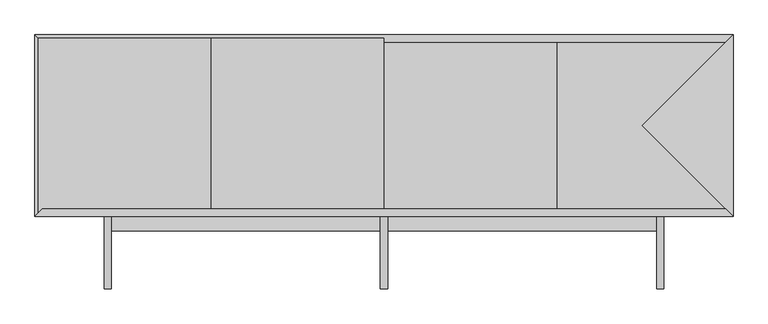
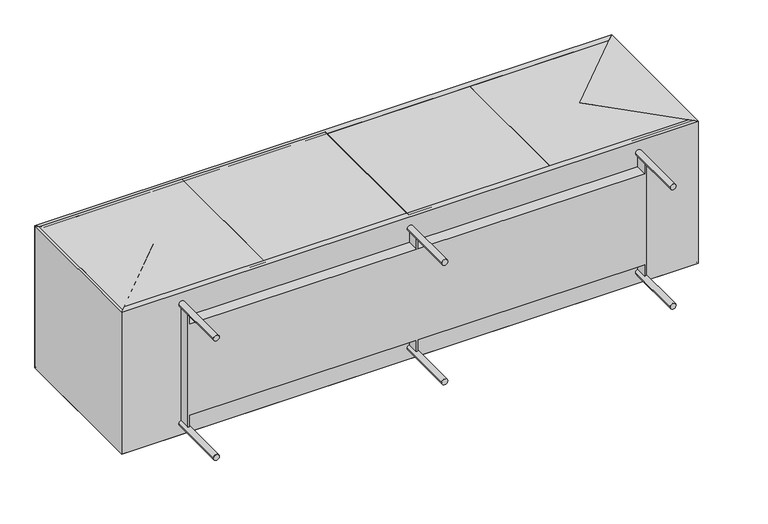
"""IFC4 building model written with IfcOpenShell, lengths in millimetres: proxy geometry, PARAGON^CREDENZA 1_35x96 4 DOORS-PARTS SOLID."""

from ifc_helpers import new_model, si_unit, frame, origin, place, context, project, spatial, polyline, circle_curve, outline, extrude, faceted_brep, source, transform, mapped, element, save
from ifc_brep_helpers import plane_surface, cylinder_surface, advanced_brep


def generic_models_fd7c845a(model_context):
    return source(origin(), model_context, "Body", "SolidModel", [
        faceted_brep([(2413.0, 25.4, 635.0), (25.4, 25.4, 635.0), (0.0, 0.0, 635.0), (2438.4, 0.0, 635.0), (2413.0, 25.4, 25.4), (25.4, 25.4, 25.4), (2438.4, 0.0, 0.0), (0.0, 0.0, 0.0)], [[[0, 1, 2, 3]], [[1, 0, 4, 5]], [[4, 0, 3, 6]], [[1, 5, 7, 2]], [[7, 5, 4, 6]], [[7, 6, 3, 2]]]),
        advanced_brep(
        [(266.7, 0.0, 50.8), (266.7, -254.0, 50.8), (241.3, -254.0, 50.8), (241.3, 0.0, 50.8), (266.7, 0.0, 584.2), (266.7, -254.0, 584.2), (241.3, -254.0, 584.2), (241.3, 0.0, 584.2), (250.825, 0.0, 571.9032779), (250.825, -50.8, 571.9032779), (257.175, -50.8, 571.9032779), (257.175, 0.0, 571.9032779), (2197.1, 0.0, 50.8), (2197.1, -254.0, 50.8), (2171.7, -254.0, 50.8), (2171.7, 0.0, 50.8), (2197.1, 0.0, 584.2), (2197.1, -254.0, 584.2), (2171.7, -254.0, 584.2), (2171.7, 0.0, 584.2), (2181.225, 0.0, 571.9032779), (2181.225, -50.8, 571.9032779), (2187.575, -50.8, 571.9032779), (2187.575, 0.0, 571.9032779), (1231.9, 0.0, 50.8), (1231.9, -254.0, 50.8), (1206.5, -254.0, 50.8), (1206.5, 0.0, 50.8), (1231.9, 0.0, 584.2), (1231.9, -254.0, 584.2), (1206.5, -254.0, 584.2), (1206.5, 0.0, 584.2), (1216.025, 0.0, 571.9032779), (1216.025, -50.8, 571.9032779), (1222.375, -50.8, 571.9032779), (1222.375, 0.0, 571.9032779), (257.175, 0.0, 113.8967221), (257.175, 0.0, 63.0967221), (250.825, 0.0, 63.0967221), (257.175, 0.0, 521.1032779), (1216.025, 0.0, 521.1032779), (1222.375, 0.0, 521.1032779), (2181.225, 0.0, 521.1032779), (2187.575, 0.0, 63.0967221), (2181.225, 0.0, 63.0967221), (2181.225, 0.0, 113.8967221), (1222.375, 0.0, 113.8967221), (1222.375, 0.0, 63.0967221), (1216.025, 0.0, 63.0967221), (1216.025, 0.0, 113.8967221), (257.175, -50.8, 113.8967221), (1216.025, -50.8, 113.8967221), (1216.025, -50.8, 63.0967221), (1222.375, -50.8, 63.0967221), (1222.375, -50.8, 113.8967221), (2181.225, -50.8, 113.8967221), (2181.225, -50.8, 63.0967221), (2187.575, -50.8, 63.0967221), (2181.225, -50.8, 521.1032779), (1222.375, -50.8, 521.1032779), (1216.025, -50.8, 521.1032779), (257.175, -50.8, 521.1032779), (250.825, -50.8, 63.0967221), (257.175, -50.8, 63.0967221)],
        [
            (0, 1),
            (1, 2, circle_curve(frame((254.0, -254.0, 50.8), z_axis=(0.0, 1.0, 0.0), x_axis=(1.0, 0.0, 0.0)), 12.7)),
            (2, 3),
            (3, 0, circle_curve(frame((254.0, 0.0, 50.8), z_axis=(0.0, -1.0, 0.0), x_axis=(1.0, 0.0, 0.0)), 12.7)),
            (4, 5),
            (5, 6, circle_curve(frame((254.0, -254.0, 584.2), z_axis=(0.0, 1.0, 0.0), x_axis=(1.0, 0.0, 0.0)), 12.7)),
            (6, 7),
            (7, 8, circle_curve(frame((254.0, 0.0, 584.2), z_axis=(0.0, -1.0, 0.0), x_axis=(1.0, 0.0, 0.0)), 12.7)),
            (8, 9),
            (9, 10, circle_curve(frame((254.0, -50.8, 584.2), z_axis=(0.0, -1.0, 0.0), x_axis=(1.0, 0.0, 0.0)), 12.7)),
            (10, 11),
            (11, 4, circle_curve(frame((254.0, 0.0, 584.2), z_axis=(0.0, -1.0, 0.0), x_axis=(1.0, 0.0, 0.0)), 12.7)),
            (12, 13),
            (13, 14, circle_curve(frame((2184.4, -254.0, 50.8), z_axis=(0.0, 1.0, 0.0), x_axis=(1.0, 0.0, 0.0)), 12.7)),
            (14, 15),
            (15, 12, circle_curve(frame((2184.4, 0.0, 50.8), z_axis=(0.0, -1.0, 0.0), x_axis=(1.0, 0.0, 0.0)), 12.7)),
            (16, 17),
            (17, 18, circle_curve(frame((2184.4, -254.0, 584.2), z_axis=(0.0, 1.0, 0.0), x_axis=(1.0, 0.0, 0.0)), 12.7)),
            (18, 19),
            (19, 20, circle_curve(frame((2184.4, 0.0, 584.2), z_axis=(0.0, -1.0, 0.0), x_axis=(1.0, 0.0, 0.0)), 12.7)),
            (20, 21),
            (21, 22, circle_curve(frame((2184.4, -50.8, 584.2), z_axis=(0.0, -1.0, 0.0), x_axis=(1.0, 0.0, 0.0)), 12.7)),
            (22, 23),
            (23, 16, circle_curve(frame((2184.4, 0.0, 584.2), z_axis=(0.0, -1.0, 0.0), x_axis=(1.0, 0.0, 0.0)), 12.7)),
            (24, 25),
            (25, 26, circle_curve(frame((1219.2, -254.0, 50.8), z_axis=(0.0, 1.0, 0.0), x_axis=(1.0, 0.0, 0.0)), 12.7)),
            (26, 27),
            (27, 24, circle_curve(frame((1219.2, 0.0, 50.8), z_axis=(0.0, -1.0, 0.0), x_axis=(1.0, 0.0, 0.0)), 12.7)),
            (28, 29),
            (29, 30, circle_curve(frame((1219.2, -254.0, 584.2), z_axis=(0.0, 1.0, 0.0), x_axis=(1.0, 0.0, 0.0)), 12.7)),
            (30, 31),
            (31, 32, circle_curve(frame((1219.2, 0.0, 584.2), z_axis=(0.0, -1.0, 0.0), x_axis=(1.0, 0.0, 0.0)), 12.7)),
            (32, 33),
            (33, 34, circle_curve(frame((1219.2, -50.8, 584.2), z_axis=(0.0, -1.0, 0.0), x_axis=(1.0, 0.0, 0.0)), 12.7)),
            (34, 35),
            (35, 28, circle_curve(frame((1219.2, 0.0, 584.2), z_axis=(0.0, -1.0, 0.0), x_axis=(1.0, 0.0, 0.0)), 12.7)),
            (36, 37),
            (37, 0, circle_curve(frame((254.0, 0.0, 50.8), z_axis=(0.0, 1.0, 0.0), x_axis=(1.0, 0.0, 0.0)), 12.7)),
            (3, 38, circle_curve(frame((254.0, 0.0, 50.8), z_axis=(0.0, 1.0, 0.0), x_axis=(1.0, 0.0, 0.0)), 12.7)),
            (38, 8),
            (7, 4, circle_curve(frame((254.0, 0.0, 584.2), z_axis=(0.0, 1.0, 0.0), x_axis=(1.0, 0.0, 0.0)), 12.7)),
            (11, 39),
            (39, 40),
            (40, 32),
            (31, 28, circle_curve(frame((1219.2, 0.0, 584.2), z_axis=(0.0, 1.0, 0.0), x_axis=(1.0, 0.0, 0.0)), 12.7)),
            (35, 41),
            (41, 42),
            (42, 20),
            (19, 16, circle_curve(frame((2184.4, 0.0, 584.2), z_axis=(0.0, 1.0, 0.0), x_axis=(1.0, 0.0, 0.0)), 12.7)),
            (23, 43),
            (43, 12, circle_curve(frame((2184.4, 0.0, 50.8), z_axis=(0.0, 1.0, 0.0), x_axis=(1.0, 0.0, 0.0)), 12.7)),
            (15, 44, circle_curve(frame((2184.4, 0.0, 50.8), z_axis=(0.0, 1.0, 0.0), x_axis=(1.0, 0.0, 0.0)), 12.7)),
            (44, 45),
            (45, 46),
            (46, 47),
            (47, 24, circle_curve(frame((1219.2, 0.0, 50.8), z_axis=(0.0, 1.0, 0.0), x_axis=(1.0, 0.0, 0.0)), 12.7)),
            (27, 48, circle_curve(frame((1219.2, 0.0, 50.8), z_axis=(0.0, 1.0, 0.0), x_axis=(1.0, 0.0, 0.0)), 12.7)),
            (48, 49),
            (49, 36),
            (50, 51),
            (51, 52),
            (52, 53, circle_curve(frame((1219.2, -50.8, 50.8), z_axis=(0.0, 1.0, 0.0), x_axis=(1.0, 0.0, 0.0)), 12.7)),
            (53, 54),
            (54, 55),
            (55, 56),
            (56, 57, circle_curve(frame((2184.4, -50.8, 50.8), z_axis=(0.0, 1.0, 0.0), x_axis=(1.0, 0.0, 0.0)), 12.7)),
            (57, 22),
            (21, 58),
            (58, 59),
            (59, 34),
            (33, 60),
            (60, 61),
            (61, 10),
            (9, 62),
            (62, 63, circle_curve(frame((254.0, -50.8, 50.8), z_axis=(0.0, 1.0, 0.0), x_axis=(1.0, 0.0, 0.0)), 12.7)),
            (63, 50),
            (49, 51),
            (50, 36),
            (54, 46),
            (45, 55),
            (41, 59),
            (58, 42),
            (60, 40),
            (39, 61),
            (48, 52),
            (53, 47),
            (30, 29, circle_curve(frame((1219.2, -254.0, 584.2), z_axis=(0.0, 1.0, 0.0), x_axis=(1.0, 0.0, 0.0)), 12.7)),
            (26, 25, circle_curve(frame((1219.2, -254.0, 50.8), z_axis=(0.0, 1.0, 0.0), x_axis=(1.0, 0.0, 0.0)), 12.7)),
            (44, 56),
            (57, 43),
            (18, 17, circle_curve(frame((2184.4, -254.0, 584.2), z_axis=(0.0, 1.0, 0.0), x_axis=(1.0, 0.0, 0.0)), 12.7)),
            (14, 13, circle_curve(frame((2184.4, -254.0, 50.8), z_axis=(0.0, 1.0, 0.0), x_axis=(1.0, 0.0, 0.0)), 12.7)),
            (63, 37),
            (38, 62),
            (6, 5, circle_curve(frame((254.0, -254.0, 584.2), z_axis=(0.0, 1.0, 0.0), x_axis=(1.0, 0.0, 0.0)), 12.7)),
            (2, 1, circle_curve(frame((254.0, -254.0, 50.8), z_axis=(0.0, 1.0, 0.0), x_axis=(1.0, 0.0, 0.0)), 12.7)),
        ],
        [
            cylinder_surface(frame((254.0, 0.0, 50.8), z_axis=(0.0, -1.0, 0.0), x_axis=(1.0, 0.0, 0.0)), 12.7),
            cylinder_surface(frame((254.0, 0.0, 584.2), z_axis=(0.0, -1.0, 0.0), x_axis=(1.0, 0.0, 0.0)), 12.7),
            cylinder_surface(frame((2184.4, 0.0, 50.8), z_axis=(0.0, -1.0, 0.0), x_axis=(1.0, 0.0, 0.0)), 12.7),
            cylinder_surface(frame((2184.4, 0.0, 584.2), z_axis=(0.0, -1.0, 0.0), x_axis=(1.0, 0.0, 0.0)), 12.7),
            cylinder_surface(frame((1219.2, 0.0, 50.8), z_axis=(0.0, -1.0, 0.0), x_axis=(1.0, 0.0, 0.0)), 12.7),
            cylinder_surface(frame((1219.2, 0.0, 584.2), z_axis=(0.0, -1.0, 0.0), x_axis=(1.0, 0.0, 0.0)), 12.7),
            plane_surface(frame((254.0, 0.0, 50.8), z_axis=(0.0, 1.0, 0.0), x_axis=(0.0, 0.0, -1.0))),
            plane_surface(frame((254.0, -50.8, 317.5), z_axis=(0.0, -1.0, 0.0), x_axis=(0.0, 0.0, -1.0))),
            plane_surface(frame((257.175, -50.8, 113.8967221), z_axis=(0.0, 0.0, -1.0), x_axis=(0.0, 1.0, 0.0))),
            plane_surface(frame((257.175, 0.0, 521.1032779), z_axis=(0.0, 0.0, 1.0), x_axis=(0.0, -1.0, 0.0))),
            plane_surface(frame((1216.025, 0.0, 584.2), z_axis=(-1.0, 0.0, 0.0), x_axis=(0.0, 0.0, -1.0))),
            plane_surface(frame((1222.375, 0.0, 50.8), z_axis=(1.0, 0.0, 0.0), x_axis=(0.0, 0.0, 1.0))),
            plane_surface(frame((1219.2, -254.0, 584.2), z_axis=(0.0, -1.0, 0.0), x_axis=(0.0, 0.0, -1.0))),
            plane_surface(frame((1219.2, -254.0, 50.8), z_axis=(0.0, -1.0, 0.0), x_axis=(0.0, 0.0, -1.0))),
            plane_surface(frame((2181.225, 0.0, 584.2), z_axis=(-1.0, 0.0, 0.0), x_axis=(0.0, 0.0, -1.0))),
            plane_surface(frame((2187.575, 0.0, 50.8), z_axis=(1.0, 0.0, 0.0), x_axis=(0.0, 0.0, 1.0))),
            plane_surface(frame((2184.4, -254.0, 584.2), z_axis=(0.0, -1.0, 0.0), x_axis=(0.0, 0.0, -1.0))),
            plane_surface(frame((2184.4, -254.0, 50.8), z_axis=(0.0, -1.0, 0.0), x_axis=(0.0, 0.0, -1.0))),
            plane_surface(frame((257.175, 0.0, 50.8), z_axis=(1.0, 0.0, 0.0), x_axis=(0.0, 0.0, 1.0))),
            plane_surface(frame((250.825, 0.0, 584.2), z_axis=(-1.0, 0.0, 0.0), x_axis=(0.0, 0.0, -1.0))),
            plane_surface(frame((254.0, -254.0, 584.2), z_axis=(0.0, -1.0, 0.0), x_axis=(0.0, 0.0, -1.0))),
            plane_surface(frame((254.0, -254.0, 50.8), z_axis=(0.0, -1.0, 0.0), x_axis=(0.0, 0.0, -1.0))),
        ],
        [
            (0, [[1, 2, 3, 4]]),
            (1, [[5, 6, 7, 8, 9, 10, 11, 12]]),
            (2, [[13, 14, 15, 16]]),
            (3, [[17, 18, 19, 20, 21, 22, 23, 24]]),
            (4, [[25, 26, 27, 28]]),
            (5, [[29, 30, 31, 32, 33, 34, 35, 36]]),
            (6, [[37, 38, -4, 39, 40, -8, 41, -12, 42, 43, 44, -32, 45, -36, 46, 47, 48, -20, 49, -24, 50, 51, -16, 52, 53, 54, 55, 56, -28, 57, 58, 59]]),
            (7, [[60, 61, 62, 63, 64, 65, 66, 67, -22, 68, 69, 70, -34, 71, 72, 73, -10, 74, 75, 76]]),
            (8, [[77, -60, 78, -59]]),
            (8, [[79, -54, 80, -64]]),
            (9, [[81, -69, 82, -47]]),
            (9, [[83, -43, 84, -72]]),
            (10, [[-83, -71, -33, -44]]),
            (10, [[-77, -58, 85, -61]]),
            (11, [[-79, -63, 86, -55]]),
            (11, [[-81, -46, -35, -70]]),
            (5, [[-29, -45, -31, 87]]),
            (12, [[-87, -30]]),
            (4, [[-25, -56, -86, -62, -85, -57, -27, 88]]),
            (13, [[-88, -26]]),
            (14, [[-82, -68, -21, -48]]),
            (14, [[-80, -53, 89, -65]]),
            (15, [[90, -50, -23, -67]]),
            (3, [[-17, -49, -19, 91]]),
            (16, [[-91, -18]]),
            (2, [[-13, -51, -90, -66, -89, -52, -15, 92]]),
            (17, [[-92, -14]]),
            (18, [[-84, -42, -11, -73]]),
            (18, [[-78, -76, 93, -37]]),
            (19, [[94, -74, -9, -40]]),
            (1, [[-5, -41, -7, 95]]),
            (20, [[-95, -6]]),
            (0, [[-1, -38, -93, -75, -94, -39, -3, 96]]),
            (21, [[-96, -2]]),
        ],
    ),
        extrude(outline(polyline([(616.1484375, 623.09375), (1218.009375, 623.09375), (1218.009375, 11.90625), (616.1484375, 11.90625), (616.1484375, 623.09375)])), frame((0.0, 0.0, 609.6), z_axis=(0.0, 0.0, 1.0), x_axis=(1.0, 0.0, 0.0)), (0.0, 0.0, 1.0), 25.4),
        extrude(outline(polyline([(11.90625, 623.09375), (613.7671875, 623.09375), (613.7671875, 11.90625), (11.90625, 11.90625), (11.90625, 623.09375)])), frame((0.0, 0.0, 609.6), z_axis=(0.0, 0.0, 1.0), x_axis=(1.0, 0.0, 0.0)), (0.0, 0.0, 1.0), 25.4),
        faceted_brep([(2120.9, 317.5, 635.0), (2438.4, 635.0, 635.0), (2438.4, 635.0, 0.0), (2120.9, 317.5, 317.5), (2438.4, 0.0, 635.0), (2438.4, 0.0, 0.0)], [[[0, 1, 2, 3]], [[1, 0, 4]], [[5, 3, 2]], [[0, 3, 5, 4]], [[5, 2, 1, 4]]]),
        extrude(outline(polyline([(1831.975, 25.4), (1812.925, 25.4), (1812.925, 609.6), (1831.975, 609.6), (1831.975, 25.4)])), frame((0.0, 0.0, 25.4), z_axis=(0.0, 0.0, 1.0), x_axis=(1.0, 0.0, 0.0)), (0.0, 0.0, 1.0), 581.025),
        faceted_brep([(25.4, 609.6, 635.0), (2413.0, 609.6, 635.0), (2438.4, 635.0, 635.0), (0.0, 635.0, 635.0), (25.4, 609.6, 25.4), (2413.0, 609.6, 25.4), (0.0, 635.0, 0.0), (2438.4, 635.0, 0.0)], [[[0, 1, 2, 3]], [[1, 0, 4, 5]], [[4, 0, 3, 6]], [[7, 5, 4, 6]], [[7, 6, 3, 2]], [[1, 5, 7, 2]]]),
        extrude(outline(polyline([(1220.390625, 623.09375), (1822.2515625, 623.09375), (1822.2515625, 11.90625), (1220.390625, 11.90625), (1220.390625, 623.09375)])), frame((0.0, 0.0, 609.6), z_axis=(0.0, 0.0, 1.0), x_axis=(1.0, 0.0, 0.0)), (0.0, 0.0, 1.0), 25.4),
        extrude(outline(polyline([(1824.6328125, 11.90625), (1824.6328125, 623.09375), (2426.49375, 623.09375), (2426.49375, 11.90625), (1824.6328125, 11.90625)])), frame((0.0, 0.0, 609.6), z_axis=(0.0, 0.0, 1.0), x_axis=(1.0, 0.0, 0.0)), (0.0, 0.0, 1.0), 25.4),
        extrude(outline(polyline([(625.475, 25.4), (606.425, 25.4), (606.425, 609.6), (625.475, 609.6), (625.475, 25.4)])), frame((0.0, 0.0, 25.4), z_axis=(0.0, 0.0, 1.0), x_axis=(1.0, 0.0, 0.0)), (0.0, 0.0, 1.0), 581.025),
        faceted_brep([(317.5, 317.5, 635.0), (0.0, 0.0, 635.0), (0.0, 0.0, 0.0), (317.5, 317.5, 317.5), (0.0, 635.0, 635.0), (0.0, 635.0, 0.0)], [[[0, 1, 2, 3]], [[1, 0, 4]], [[5, 3, 2]], [[0, 3, 5, 4]], [[5, 2, 1, 4]]]),
        faceted_brep([(0.0, 0.0, 0.0), (317.5, 317.5, 317.5), (0.0, 635.0, 0.0), (2438.4, 0.0, 0.0), (2120.9, 317.5, 317.5), (2438.4, 635.0, 0.0)], [[[0, 1, 2]], [[1, 0, 3, 4]], [[1, 4, 5, 2]], [[5, 3, 0, 2]], [[4, 3, 5]]]),
    ])


if __name__ == "__main__":
    model = new_model("IFC4")
    model_context = context("Model", 3, world=origin())
    ifc_project = project(units=[si_unit("LENGTHUNIT", "METRE", prefix="MILLI")], contexts=[model_context])
    site = spatial("IfcSite", under=ifc_project)
    building = spatial("IfcBuilding", under=site)
    placement = place(None, origin())
    generic_models_shape = generic_models_fd7c845a(model_context)
    element("IfcBuildingElementProxy", 1, Name="PARAGON^CREDENZA 1_35x96 4 DOORS-PARTS SOLID", ObjectType="PARAGON^CREDENZA 1_35x96 4 DOORS-PARTS SOLID", at=placement, inside=building, context=model_context, shape_type="MappedRepresentation", body=[
        mapped(generic_models_shape, transform((0.0, 0.0, 0.0), x_axis=(1.0, 0.0, 0.0), y_axis=(0.0, 1.0, 0.0), z_axis=(0.0, 0.0, 1.0))),
    ])
    save(model, "model.ifc")
